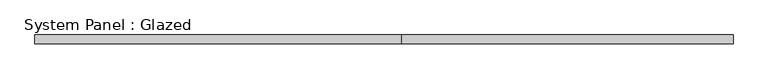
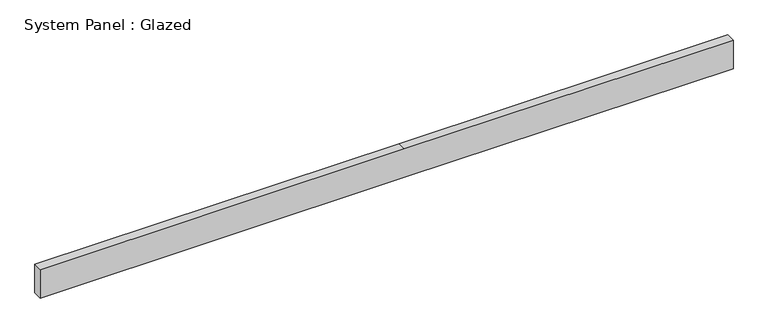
"""IFC4 building model written with IfcOpenShell, lengths in millimetres: plate geometry, System Panel : Glazed."""

from ifc_helpers import new_model, si_unit, frame, origin, place, context, project, spatial, polyline, outline, extrude, source, transform, mapped, element, save


def system_panel_glazed_d7765e30(model_context):
    return source(origin(), model_context, "Body", "SweptSolid", [
        extrude(outline(polyline([(0.0, -985.4757062), (0.0, 50.8), (0.0, 985.4757062), (85.6919949, 985.4757062), (85.6919949, 50.8), (85.6919949, -985.4757062), (0.0, -985.4757062)])), frame((0.0, 19.05, 0.0), z_axis=(0.0, 1.0, 0.0), x_axis=(0.0, 0.0, 1.0)), (0.0, 0.0, 1.0), 25.4),
    ])


if __name__ == "__main__":
    model = new_model("IFC4")
    model_context = context("Model", 3, world=origin())
    ifc_project = project(units=[si_unit("LENGTHUNIT", "METRE", prefix="MILLI")], contexts=[model_context])
    site = spatial("IfcSite", under=ifc_project)
    building = spatial("IfcBuilding", under=site)
    placement = place(None, origin())
    system_panel_glazed_shape = system_panel_glazed_d7765e30(model_context)
    element("IfcPlate", 1, ObjectType="System Panel : Glazed", at=placement, inside=building, context=model_context, shape_type="MappedRepresentation", body=[
        mapped(system_panel_glazed_shape, transform((0.0, 0.0, 0.0), x_axis=(1.0, 0.0, 0.0), y_axis=(0.0, 1.0, 0.0), z_axis=(0.0, 0.0, 1.0))),
    ])
    save(model, "model.ifc")
